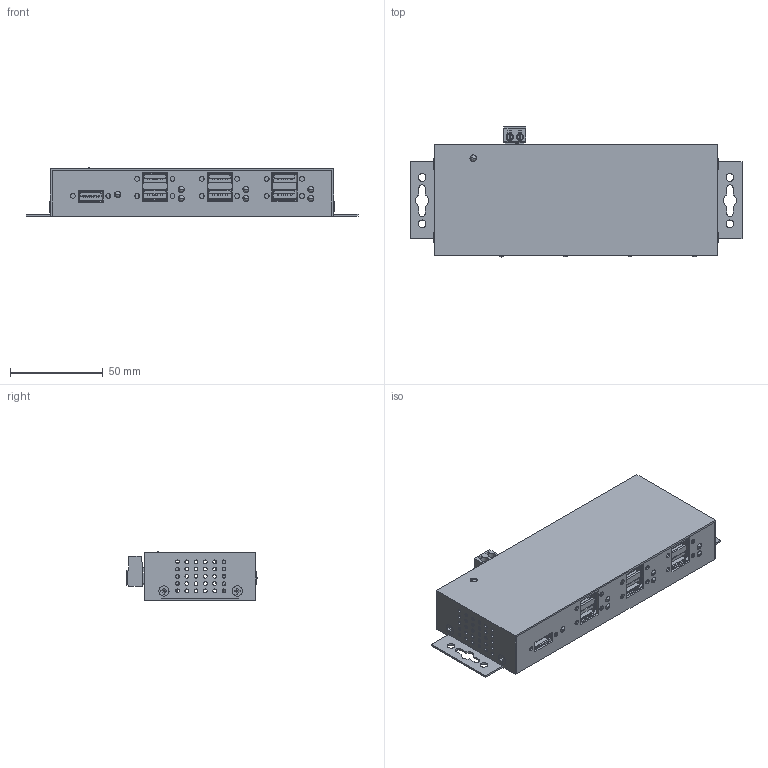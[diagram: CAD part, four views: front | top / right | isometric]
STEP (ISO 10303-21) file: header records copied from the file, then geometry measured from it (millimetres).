
FILE_DESCRIPTION(('FreeCAD Model'),'2;1');
FILE_NAME( 'X:/Technische Zeichnungen/EX-1189HMVS-3W/EX-1189HMVS-3W_3D.step', '2019-11-20T08:31:24',('Author'),(''), 'Open CASCADE STEP processor 6.8','FreeCAD','Unknown');
FILE_SCHEMA(('AUTOMOTIVE_DESIGN_CC2 { 1 2 10303 214 -1 1 5 4 }'));
Products named in the file (1): EX-1189HMVS-3W_3D
Bounding box: 178.6 x 70.02 x 25.97 mm (x, y, z)
Volume: 59341.1 mm3; surface area: 90866.2 mm2
Topology: 9 solids, 11 shells, 3112 faces, 8968 edges, 5922 vertices
Faces by surface type: plane 2125, cylinder 785, cone 96, torus 76, sphere 24, revolution 6
Full cylindrical faces by diameter (mm): 2 x61, 2.5 x4, 2.6 x24, 3.12 x2, 3.2 x1, 3.3 x7, 3.5 x4, 3.6 x1, 4 x4, 4.2 x4, 5.3 x4, 8.5 x1
Entity records: 343090 total; most frequent: CARTESIAN_POINT 153251, DIRECTION 28140, ORIENTED_EDGE 17888, PCURVE 17888, DEFINITIONAL_REPRESENTATION 17888, LINE 16706, VECTOR 16706, EDGE_CURVE 8944
